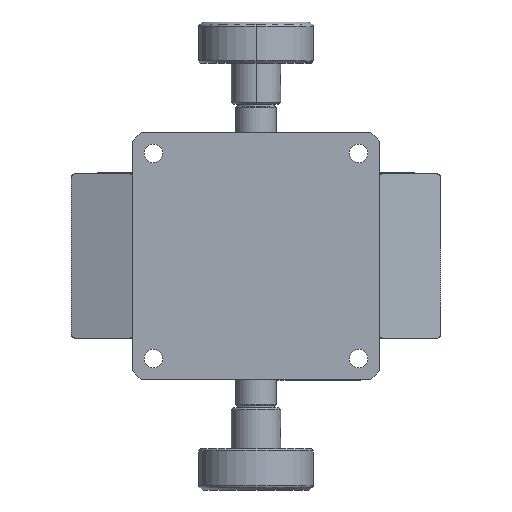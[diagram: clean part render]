
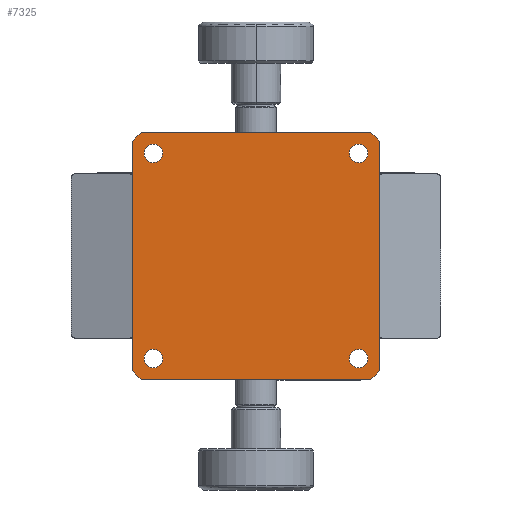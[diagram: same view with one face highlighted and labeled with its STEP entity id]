
A CAD part, front view. The second image highlights one B-rep face of the part: STEP entity #7325.
In plain terms, the highlighted planar face has unit normal (0, -1, 0).
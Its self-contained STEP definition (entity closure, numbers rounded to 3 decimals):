
#925 = LINE ( 'NONE', #40573, #38651 ) ;
#1224 = DIRECTION ( 'NONE',  ( 1., 0., 0. ) ) ;
#1243 = EDGE_CURVE ( 'NONE', #46705, #46671, #23441, .T. ) ;
#1794 = CIRCLE ( 'NONE', #28751, 2.25 ) ;
#2762 = DIRECTION ( 'NONE',  ( 1., 0., 0. ) ) ;
#3008 = VERTEX_POINT ( 'NONE', #31676 ) ;
#3711 = AXIS2_PLACEMENT_3D ( 'NONE', #10641, #15371, #15573 ) ;
#3713 = VECTOR ( 'NONE', #9797, 1000. ) ;
#3750 = CIRCLE ( 'NONE', #10720, 2.25 ) ;
#3759 = DIRECTION ( 'NONE',  ( 1., 0., 0. ) ) ;
#4308 = EDGE_CURVE ( 'NONE', #62263, #14288, #925, .T. ) ;
#4593 = CARTESIAN_POINT ( 'NONE',  ( -22.75, 0., -25. ) ) ;
#4781 = DIRECTION ( 'NONE',  ( 0.707, 0., 0.707 ) ) ;
#5136 = CARTESIAN_POINT ( 'NONE',  ( -25., 0., -25. ) ) ;
#5140 = CARTESIAN_POINT ( 'NONE',  ( -25., 0., 25. ) ) ;
#5457 = EDGE_LOOP ( 'NONE', ( #18508, #57846 ) ) ;
#7037 = VERTEX_POINT ( 'NONE', #35197 ) ;
#7183 = VECTOR ( 'NONE', #4781, 1000. ) ;
#7197 = EDGE_CURVE ( 'NONE', #3008, #46671, #57676, .T. ) ;
#7325 = ADVANCED_FACE ( 'NONE', ( #10644, #9109, #46897, #59923, #33725 ), #40097, .T. ) ;
#7952 = DIRECTION ( 'NONE',  ( 0., 1., 0. ) ) ;
#7953 = DIRECTION ( 'NONE',  ( 0., 1., 0. ) ) ;
#9109 = FACE_BOUND ( 'NONE', #31104, .T. ) ;
#9552 = CIRCLE ( 'NONE', #25714, 2.25 ) ;
#9797 = DIRECTION ( 'NONE',  ( -0.707, 0., -0.707 ) ) ;
#10050 = VECTOR ( 'NONE', #44239, 1000. ) ;
#10103 = DIRECTION ( 'NONE',  ( 1., 0., 0. ) ) ;
#10109 = DIRECTION ( 'NONE',  ( 1., 0., 0. ) ) ;
#10363 = VECTOR ( 'NONE', #30667, 1000. ) ;
#10520 = CARTESIAN_POINT ( 'NONE',  ( 27.25, 0., 25. ) ) ;
#10641 = CARTESIAN_POINT ( 'NONE',  ( -30., 0., 30. ) ) ;
#10644 = FACE_BOUND ( 'NONE', #35351, .T. ) ;
#10720 = AXIS2_PLACEMENT_3D ( 'NONE', #14293, #48737, #19172 ) ;
#12153 = AXIS2_PLACEMENT_3D ( 'NONE', #60205, #30680, #1224 ) ;
#12907 = AXIS2_PLACEMENT_3D ( 'NONE', #62754, #33251, #3759 ) ;
#13516 = EDGE_CURVE ( 'NONE', #29796, #42360, #9552, .T. ) ;
#14241 = VERTEX_POINT ( 'NONE', #56919 ) ;
#14288 = VERTEX_POINT ( 'NONE', #62067 ) ;
#14293 = CARTESIAN_POINT ( 'NONE',  ( 25., 0., -25. ) ) ;
#15314 = AXIS2_PLACEMENT_3D ( 'NONE', #37437, #7952, #42397 ) ;
#15371 = DIRECTION ( 'NONE',  ( 0., -1., 0. ) ) ;
#15573 = DIRECTION ( 'NONE',  ( -1., 0., 0. ) ) ;
#16264 = EDGE_CURVE ( 'NONE', #7037, #14241, #36238, .T. ) ;
#17896 = ORIENTED_EDGE ( 'NONE', *, *, #7197, .T. ) ;
#18311 = ORIENTED_EDGE ( 'NONE', *, *, #32005, .T. ) ;
#18508 = ORIENTED_EDGE ( 'NONE', *, *, #31368, .T. ) ;
#19172 = DIRECTION ( 'NONE',  ( 1., 0., 0. ) ) ;
#19358 = ORIENTED_EDGE ( 'NONE', *, *, #46623, .T. ) ;
#20224 = LINE ( 'NONE', #44005, #7183 ) ;
#20233 = VERTEX_POINT ( 'NONE', #54548 ) ;
#23283 = ORIENTED_EDGE ( 'NONE', *, *, #16264, .F. ) ;
#23441 = LINE ( 'NONE', #50333, #10363 ) ;
#23825 = EDGE_LOOP ( 'NONE', ( #62700, #18311 ) ) ;
#23852 = CARTESIAN_POINT ( 'NONE',  ( -27.25, 0., 25. ) ) ;
#24467 = CARTESIAN_POINT ( 'NONE',  ( 22.75, 0., -25. ) ) ;
#25086 = EDGE_LOOP ( 'NONE', ( #45719, #17896, #32915, #63204, #23283, #19358, #25636, #42372 ) ) ;
#25221 = LINE ( 'NONE', #62922, #48444 ) ;
#25636 = ORIENTED_EDGE ( 'NONE', *, *, #4308, .F. ) ;
#25714 = AXIS2_PLACEMENT_3D ( 'NONE', #61769, #32262, #2762 ) ;
#28751 = AXIS2_PLACEMENT_3D ( 'NONE', #37439, #7953, #42398 ) ;
#29030 = VERTEX_POINT ( 'NONE', #47717 ) ;
#29796 = VERTEX_POINT ( 'NONE', #40435 ) ;
#30667 = DIRECTION ( 'NONE',  ( 0., 0., 1. ) ) ;
#30680 = DIRECTION ( 'NONE',  ( 0., 1., 0. ) ) ;
#31104 = EDGE_LOOP ( 'NONE', ( #60895, #50729 ) ) ;
#31368 = EDGE_CURVE ( 'NONE', #45244, #20233, #33920, .T. ) ;
#31676 = CARTESIAN_POINT ( 'NONE',  ( -28., 0., 30. ) ) ;
#32005 = EDGE_CURVE ( 'NONE', #33660, #55598, #43886, .T. ) ;
#32020 = AXIS2_PLACEMENT_3D ( 'NONE', #5140, #39575, #10109 ) ;
#32262 = DIRECTION ( 'NONE',  ( 0., 1., 0. ) ) ;
#32296 = VERTEX_POINT ( 'NONE', #23852 ) ;
#32915 = ORIENTED_EDGE ( 'NONE', *, *, #1243, .F. ) ;
#33251 = DIRECTION ( 'NONE',  ( 0., 1., 0. ) ) ;
#33660 = VERTEX_POINT ( 'NONE', #24467 ) ;
#33725 = FACE_OUTER_BOUND ( 'NONE', #25086, .T. ) ;
#33920 = CIRCLE ( 'NONE', #15314, 2.25 ) ;
#34322 = CARTESIAN_POINT ( 'NONE',  ( 30., 0., -30. ) ) ;
#34392 = EDGE_CURVE ( 'NONE', #42360, #29796, #38274, .T. ) ;
#35161 = VECTOR ( 'NONE', #39271, 1000. ) ;
#35197 = CARTESIAN_POINT ( 'NONE',  ( 28., 0., -30. ) ) ;
#35351 = EDGE_LOOP ( 'NONE', ( #52635, #47400 ) ) ;
#35632 = DIRECTION ( 'NONE',  ( 0., 0., -1. ) ) ;
#36238 = LINE ( 'NONE', #34322, #10050 ) ;
#36965 = EDGE_CURVE ( 'NONE', #20233, #45244, #42718, .T. ) ;
#37437 = CARTESIAN_POINT ( 'NONE',  ( -25., 0., -25. ) ) ;
#37439 = CARTESIAN_POINT ( 'NONE',  ( -25., 0., 25. ) ) ;
#38274 = CIRCLE ( 'NONE', #12153, 2.25 ) ;
#38651 = VECTOR ( 'NONE', #35632, 1000. ) ;
#39271 = DIRECTION ( 'NONE',  ( 1., 0., 0. ) ) ;
#39571 = DIRECTION ( 'NONE',  ( 0., 1., 0. ) ) ;
#39575 = DIRECTION ( 'NONE',  ( 0., 1., 0. ) ) ;
#40097 = PLANE ( 'NONE',  #3711 ) ;
#40435 = CARTESIAN_POINT ( 'NONE',  ( 22.75, 0., 25. ) ) ;
#40573 = CARTESIAN_POINT ( 'NONE',  ( 30., 0., 30. ) ) ;
#41797 = EDGE_CURVE ( 'NONE', #55598, #33660, #3750, .T. ) ;
#41828 = CARTESIAN_POINT ( 'NONE',  ( 30., 0., 28. ) ) ;
#42360 = VERTEX_POINT ( 'NONE', #10520 ) ;
#42372 = ORIENTED_EDGE ( 'NONE', *, *, #60048, .T. ) ;
#42397 = DIRECTION ( 'NONE',  ( 1., 0., 0. ) ) ;
#42398 = DIRECTION ( 'NONE',  ( 1., 0., 0. ) ) ;
#42718 = CIRCLE ( 'NONE', #44364, 2.25 ) ;
#43886 = CIRCLE ( 'NONE', #12907, 2.25 ) ;
#44005 = CARTESIAN_POINT ( 'NONE',  ( 29., 0., -29. ) ) ;
#44217 = CARTESIAN_POINT ( 'NONE',  ( -30., 0., 28. ) ) ;
#44235 = CARTESIAN_POINT ( 'NONE',  ( -29., 0., 29. ) ) ;
#44239 = DIRECTION ( 'NONE',  ( -1., 0., 0. ) ) ;
#44364 = AXIS2_PLACEMENT_3D ( 'NONE', #5136, #39571, #10103 ) ;
#44851 = CARTESIAN_POINT ( 'NONE',  ( -30., 0., -28. ) ) ;
#45244 = VERTEX_POINT ( 'NONE', #4593 ) ;
#45719 = ORIENTED_EDGE ( 'NONE', *, *, #61316, .F. ) ;
#46623 = EDGE_CURVE ( 'NONE', #7037, #14288, #20224, .T. ) ;
#46671 = VERTEX_POINT ( 'NONE', #44217 ) ;
#46705 = VERTEX_POINT ( 'NONE', #44851 ) ;
#46897 = FACE_BOUND ( 'NONE', #5457, .T. ) ;
#47400 = ORIENTED_EDGE ( 'NONE', *, *, #13516, .T. ) ;
#47717 = CARTESIAN_POINT ( 'NONE',  ( -22.75, 0., 25. ) ) ;
#48196 = CARTESIAN_POINT ( 'NONE',  ( -59., 0., 1. ) ) ;
#48229 = CARTESIAN_POINT ( 'NONE',  ( 28., 0., 30. ) ) ;
#48317 = DIRECTION ( 'NONE',  ( -0.707, 0., 0.707 ) ) ;
#48324 = LINE ( 'NONE', #63817, #35161 ) ;
#48444 = VECTOR ( 'NONE', #48317, 1000. ) ;
#48737 = DIRECTION ( 'NONE',  ( 0., 1., 0. ) ) ;
#50333 = CARTESIAN_POINT ( 'NONE',  ( -30., 0., 30. ) ) ;
#50729 = ORIENTED_EDGE ( 'NONE', *, *, #51405, .T. ) ;
#51405 = EDGE_CURVE ( 'NONE', #32296, #29030, #62982, .T. ) ;
#52437 = LINE ( 'NONE', #48196, #62382 ) ;
#52635 = ORIENTED_EDGE ( 'NONE', *, *, #34392, .T. ) ;
#52953 = DIRECTION ( 'NONE',  ( 0.707, 0., -0.707 ) ) ;
#54548 = CARTESIAN_POINT ( 'NONE',  ( -27.25, 0., -25. ) ) ;
#54787 = EDGE_CURVE ( 'NONE', #29030, #32296, #1794, .T. ) ;
#54891 = VERTEX_POINT ( 'NONE', #48229 ) ;
#55598 = VERTEX_POINT ( 'NONE', #57324 ) ;
#56919 = CARTESIAN_POINT ( 'NONE',  ( -28., 0., -30. ) ) ;
#57324 = CARTESIAN_POINT ( 'NONE',  ( 27.25, 0., -25. ) ) ;
#57676 = LINE ( 'NONE', #44235, #3713 ) ;
#57846 = ORIENTED_EDGE ( 'NONE', *, *, #36965, .T. ) ;
#59051 = EDGE_CURVE ( 'NONE', #46705, #14241, #52437, .T. ) ;
#59923 = FACE_BOUND ( 'NONE', #23825, .T. ) ;
#60048 = EDGE_CURVE ( 'NONE', #62263, #54891, #25221, .T. ) ;
#60205 = CARTESIAN_POINT ( 'NONE',  ( 25., 0., 25. ) ) ;
#60895 = ORIENTED_EDGE ( 'NONE', *, *, #54787, .T. ) ;
#61316 = EDGE_CURVE ( 'NONE', #3008, #54891, #48324, .T. ) ;
#61769 = CARTESIAN_POINT ( 'NONE',  ( 25., 0., 25. ) ) ;
#62067 = CARTESIAN_POINT ( 'NONE',  ( 30., 0., -28. ) ) ;
#62263 = VERTEX_POINT ( 'NONE', #41828 ) ;
#62382 = VECTOR ( 'NONE', #52953, 1000. ) ;
#62700 = ORIENTED_EDGE ( 'NONE', *, *, #41797, .T. ) ;
#62754 = CARTESIAN_POINT ( 'NONE',  ( 25., 0., -25. ) ) ;
#62922 = CARTESIAN_POINT ( 'NONE',  ( -1., 0., 59. ) ) ;
#62982 = CIRCLE ( 'NONE', #32020, 2.25 ) ;
#63204 = ORIENTED_EDGE ( 'NONE', *, *, #59051, .T. ) ;
#63817 = CARTESIAN_POINT ( 'NONE',  ( 30., 0., 30. ) ) ;
